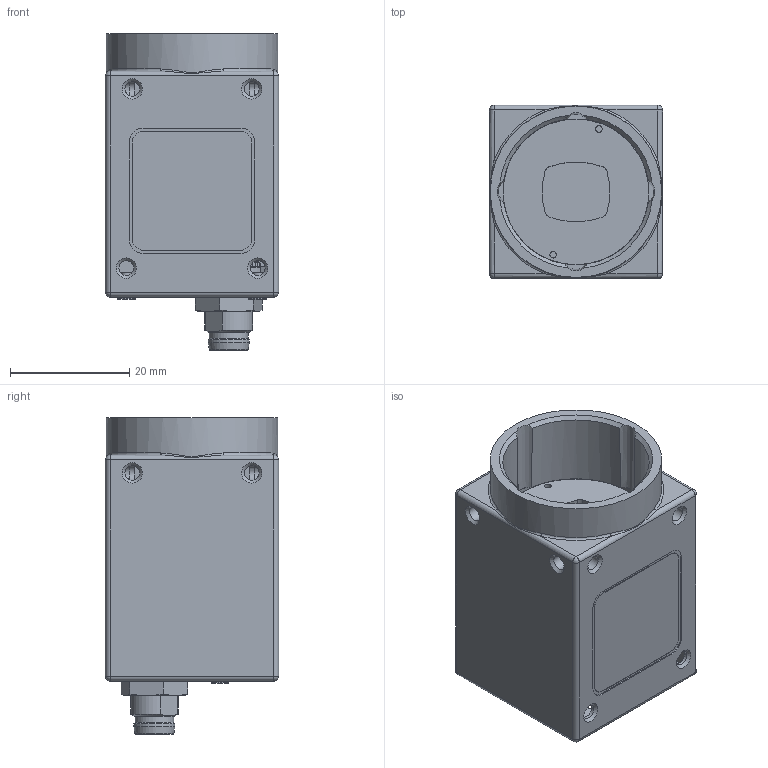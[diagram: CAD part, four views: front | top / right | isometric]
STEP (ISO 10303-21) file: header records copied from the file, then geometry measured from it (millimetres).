
FILE_DESCRIPTION(/* description */ ('Unknown'),/* implementation_level */ '2;1');
FILE_NAME(/* name */ '11175755_VCXU-125M.R',/* time_stamp */ '2018-05-25T11:50:12+02:00',/* author */ ('Unknown'),/* organization */ ('Unknown'),/* preprocessor_version */ 'ST-DEVELOPER v16.7',/* originating_system */ 'DEX',/* authorisation */ $);
FILE_SCHEMA (('AUTOMOTIVE_DESIGN {1 0 10303 214 3 1 1}'));
Length unit declared in the file: millimetre
Products named in the file (1): 11175755_VCXU-125M.R
Bounding box: 29 x 29 x 53 mm (x, y, z)
Volume: 10502.7 mm3; surface area: 15128 mm2
Topology: 5 solids, 9 shells, 1563 faces, 4057 edges, 2665 vertices
Faces by surface type: plane 924, cylinder 485, cone 71, bspline 32, torus 27, sphere 24
Full cylindrical faces by diameter (mm): 0.217 x1, 0.6 x143, 0.7 x1, 0.9 x1, 1.1 x2, 1.4 x4, 1.567 x2, 1.6 x2, 1.9 x4, 2.459 x10, 3 x4, 6.5 x1, 6.9 x1, 8.4 x1, 9 x1, 9.4 x1, 24.4 x1, 26 x1, 28.7 x1
Entity records: 57004 total; most frequent: CARTESIAN_POINT 9829, DIRECTION 7432, ORIENTED_EDGE 7160, EDGE_CURVE 3580, AXIS2_PLACEMENT_3D 2649, VERTEX_POINT 2461, LINE 2134, VECTOR 2134
